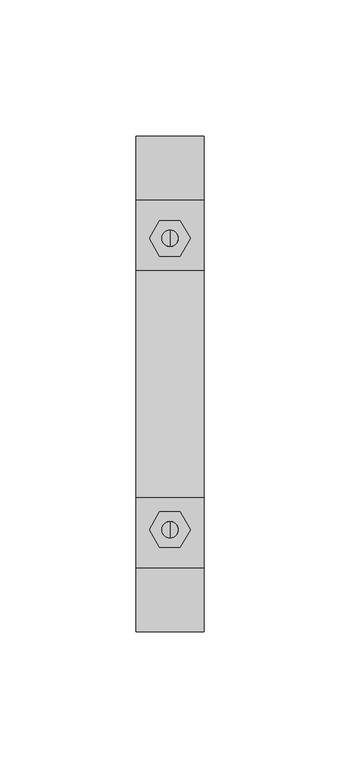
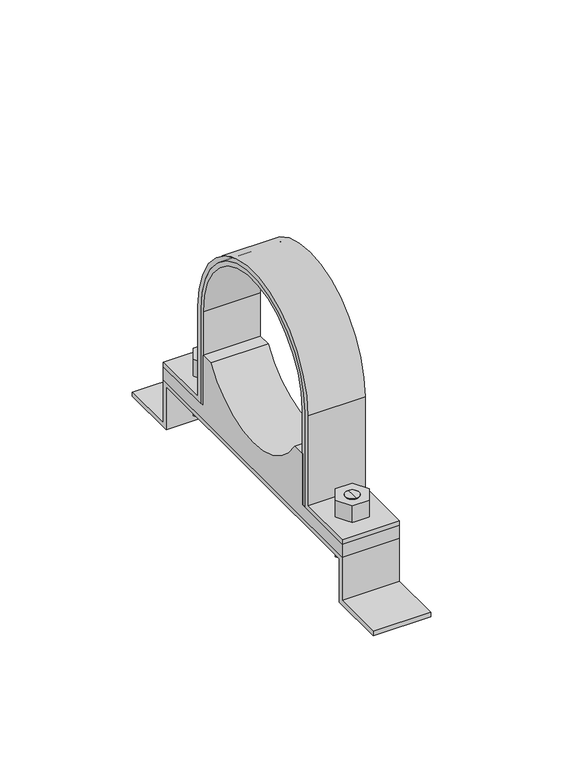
"""IFC4 building model written with IfcOpenShell, lengths in millimetres: valve geometry, Superfix DG3 Clamp (based on pipe) : Superfix DG3 Clamp (based on pipe)."""

from ifc_helpers import new_model, si_unit, point, frame, frame_2d, origin, place, context, project, spatial, polyline, circle_curve, trimmed, segment, composite_curve, outline, extrude, source, transform, mapped, element, save
from ifc_brep_helpers import plane_surface, cylinder_surface, advanced_brep


def valve_2bce42df(model_context):
    return source(origin(), model_context, "Body", "SolidModel", [
        advanced_brep(
        [(0.0, 56.5, 7.0), (0.0, 50.5, 7.0), (0.0, 50.5, 20.0), (0.0, 56.5, 20.0), (0.0, 53.5, 7.0)],
        [
            (0, 1, circle_curve(frame((0.0, 53.5, 7.0), z_axis=(0.0, 0.0, 1.0), x_axis=(0.0, 1.0, 0.0)), 3.0)),
            (1, 2),
            (2, 3, circle_curve(frame((0.0, 53.5, 20.0), z_axis=(0.0, 0.0, -1.0), x_axis=(0.0, 1.0, 0.0)), 3.0)),
            (3, 0),
            (1, 0, circle_curve(frame((0.0, 53.5, 7.0), z_axis=(0.0, 0.0, 1.0), x_axis=(0.0, 1.0, 0.0)), 3.0)),
            (3, 2, circle_curve(frame((0.0, 53.5, 20.0), z_axis=(0.0, 0.0, -1.0), x_axis=(0.0, 1.0, 0.0)), 3.0)),
            (0, 4),
            (4, 1),
        ],
        [
            cylinder_surface(frame((0.0, 53.5, 69.7806094), z_axis=(0.0, 0.0, 1.0), x_axis=(0.0, 1.0, 0.0)), 3.0),
            plane_surface(frame((0.0, 53.5, 7.0), z_axis=(0.0, 0.0, -1.0), x_axis=(0.0, 1.0, 0.0))),
            plane_surface(frame((13.75, -67.5, 20.0), z_axis=(0.0, 0.0, 1.0), x_axis=(-1.0, 0.0, 0.0))),
        ],
        [
            (0, [[1, 2, 3, 4]]),
            (0, [[5, -4, 6, -2]]),
            (1, [[-1, 7, 8]]),
            (1, [[-5, -8, -7]]),
            (2, [[-3, -6]]),
        ],
    ),
        advanced_brep(
        [(0.0, 50.5, 38.0), (0.0, 56.5, 38.0), (0.0, 56.5, 28.0), (0.0, 50.5, 28.0), (0.0, 53.5, 38.0)],
        [
            (0, 1, circle_curve(frame((0.0, 53.5, 38.0), z_axis=(0.0, 0.0, -1.0), x_axis=(0.0, 1.0, 0.0)), 3.0)),
            (1, 2),
            (2, 3, circle_curve(frame((0.0, 53.5, 28.0), z_axis=(0.0, 0.0, 1.0), x_axis=(0.0, 1.0, 0.0)), 3.0)),
            (3, 0),
            (1, 0, circle_curve(frame((0.0, 53.5, 38.0), z_axis=(0.0, 0.0, -1.0), x_axis=(0.0, 1.0, 0.0)), 3.0)),
            (3, 2, circle_curve(frame((0.0, 53.5, 28.0), z_axis=(0.0, 0.0, 1.0), x_axis=(0.0, 1.0, 0.0)), 3.0)),
            (0, 4),
            (4, 1),
        ],
        [
            cylinder_surface(frame((0.0, 53.5, 69.7806094), z_axis=(0.0, 0.0, 1.0), x_axis=(0.0, 1.0, 0.0)), 3.0),
            plane_surface(frame((0.0, 53.5, 38.0), z_axis=(0.0, 0.0, 1.0), x_axis=(0.0, 1.0, 0.0))),
            plane_surface(frame((13.75, 67.5, 28.0), z_axis=(0.0, 0.0, -1.0), x_axis=(-1.0, 0.0, 0.0))),
        ],
        [
            (0, [[1, 2, 3, 4]]),
            (0, [[5, -4, 6, -2]]),
            (1, [[-1, 7, 8]]),
            (1, [[-5, -8, -7]]),
            (2, [[-3, -6]]),
        ],
    ),
        advanced_brep(
        [(0.0, -56.5, 38.0), (0.0, -50.5, 38.0), (0.0, -50.5, 28.0), (0.0, -56.5, 28.0), (0.0, -53.5, 38.0)],
        [
            (0, 1, circle_curve(frame((0.0, -53.5, 38.0), z_axis=(0.0, 0.0, -1.0), x_axis=(0.0, -1.0, 0.0)), 3.0)),
            (1, 2),
            (2, 3, circle_curve(frame((0.0, -53.5, 28.0), z_axis=(0.0, 0.0, 1.0), x_axis=(0.0, -1.0, 0.0)), 3.0)),
            (3, 0),
            (1, 0, circle_curve(frame((0.0, -53.5, 38.0), z_axis=(0.0, 0.0, -1.0), x_axis=(0.0, -1.0, 0.0)), 3.0)),
            (3, 2, circle_curve(frame((0.0, -53.5, 28.0), z_axis=(0.0, 0.0, 1.0), x_axis=(0.0, -1.0, 0.0)), 3.0)),
            (0, 4),
            (4, 1),
        ],
        [
            cylinder_surface(frame((0.0, -53.5, 69.7806094), z_axis=(0.0, 0.0, -1.0), x_axis=(0.0, -1.0, 0.0)), 3.0),
            plane_surface(frame((0.0, -53.5, 38.0), z_axis=(0.0, 0.0, 1.0), x_axis=(0.0, -1.0, 0.0))),
            plane_surface(frame((13.75, 67.5, 28.0), z_axis=(0.0, 0.0, -1.0), x_axis=(-1.0, 0.0, 0.0))),
        ],
        [
            (0, [[1, 2, 3, 4]]),
            (0, [[5, -4, 6, -2]]),
            (1, [[-1, 7, 8]]),
            (1, [[-5, -8, -7]]),
            (2, [[-3, -6]]),
        ],
    ),
        advanced_brep(
        [(0.0, -50.5, 7.0), (0.0, -56.5, 7.0), (0.0, -56.5, 20.0), (0.0, -50.5, 20.0), (0.0, -53.5, 7.0)],
        [
            (0, 1, circle_curve(frame((0.0, -53.5, 7.0), z_axis=(0.0, 0.0, 1.0), x_axis=(0.0, -1.0, 0.0)), 3.0)),
            (1, 2),
            (2, 3, circle_curve(frame((0.0, -53.5, 20.0), z_axis=(0.0, 0.0, -1.0), x_axis=(0.0, -1.0, 0.0)), 3.0)),
            (3, 0),
            (1, 0, circle_curve(frame((0.0, -53.5, 7.0), z_axis=(0.0, 0.0, 1.0), x_axis=(0.0, -1.0, 0.0)), 3.0)),
            (3, 2, circle_curve(frame((0.0, -53.5, 20.0), z_axis=(0.0, 0.0, -1.0), x_axis=(0.0, -1.0, 0.0)), 3.0)),
            (0, 4),
            (4, 1),
        ],
        [
            cylinder_surface(frame((0.0, -53.5, 69.7806094), z_axis=(0.0, 0.0, -1.0), x_axis=(0.0, -1.0, 0.0)), 3.0),
            plane_surface(frame((0.0, -53.5, 7.0), z_axis=(0.0, 0.0, -1.0), x_axis=(0.0, -1.0, 0.0))),
            plane_surface(frame((13.75, -67.5, 20.0), z_axis=(0.0, 0.0, 1.0), x_axis=(-1.0, 0.0, 0.0))),
        ],
        [
            (0, [[1, 2, 3, 4]]),
            (0, [[5, -4, 6, -2]]),
            (1, [[-1, 7, 8]]),
            (1, [[-5, -8, -7]]),
            (2, [[-3, -6]]),
        ],
    ),
        extrude(outline(composite_curve([segment(trimmed(circle_curve(frame_2d((0.0, 71.5)), 39.5), [point((39.5, 71.5))], [point((-39.5, 71.5))], True, "CARTESIAN"), True, "CONTINUOUS"), segment(polyline([(-39.5, 71.5), (-39.5, 28.0), (-67.5, 28.0), (-67.5, 30.0), (-41.5, 30.0), (-41.5, 71.5)]), True, "CONTINUOUS"), segment(trimmed(circle_curve(frame_2d((0.0, 71.5)), 41.5), [point((-41.5, 71.5))], [point((41.5, 71.5))], False, "CARTESIAN"), True, "CONTINUOUS"), segment(polyline([(41.5, 71.5), (41.5, 30.0), (67.5, 30.0), (67.5, 28.0), (39.5, 28.0), (39.5, 71.5)]), True, "CONTINUOUS")], self_intersect=False)), frame((-12.5, 0.0, 0.0), z_axis=(1.0, 0.0, 0.0), x_axis=(0.0, 1.0, 0.0)), (0.0, 0.0, 1.0), 25.0),
        extrude(outline(polyline([(7.5055535, -53.5), (3.7527767, -60.0), (-3.7527767, -60.0), (-7.5055535, -53.5), (-3.7527767, -47.0), (3.7527767, -47.0), (7.5055535, -53.5)]), holes=[composite_curve([segment(trimmed(circle_curve(frame_2d((0.0, -53.5)), 3.0), [point((3.0, -53.5))], [point((-3.0, -53.5))], True, "CARTESIAN"), True, "CONTINUOUS"), segment(trimmed(circle_curve(frame_2d((0.0, -53.5)), 3.0), [point((-3.0, -53.5))], [point((3.0, -53.5))], True, "CARTESIAN"), True, "CONTINUOUS")], self_intersect=False)]), frame((0.0, 0.0, 30.0), z_axis=(0.0, 0.0, 1.0), x_axis=(1.0, 0.0, 0.0)), (0.0, 0.0, 1.0), 8.0),
        extrude(outline(polyline([(7.5055535, 53.5), (3.7527767, 47.0), (-3.7527767, 47.0), (-7.5055535, 53.5), (-3.7527767, 60.0), (3.7527767, 60.0), (7.5055535, 53.5)]), holes=[composite_curve([segment(trimmed(circle_curve(frame_2d((0.0, 53.5)), 3.0), [point((3.0, 53.5))], [point((-3.0, 53.5))], True, "CARTESIAN"), True, "CONTINUOUS"), segment(trimmed(circle_curve(frame_2d((0.0, 53.5)), 3.0), [point((-3.0, 53.5))], [point((3.0, 53.5))], True, "CARTESIAN"), True, "CONTINUOUS")], self_intersect=False)]), frame((0.0, 0.0, 30.0), z_axis=(0.0, 0.0, 1.0), x_axis=(1.0, 0.0, 0.0)), (0.0, 0.0, 1.0), 8.0),
        extrude(outline(polyline([(7.5055535, -53.5), (3.7527767, -60.0), (-3.7527767, -60.0), (-7.5055535, -53.5), (-3.7527767, -47.0), (3.7527767, -47.0), (7.5055535, -53.5)]), holes=[composite_curve([segment(trimmed(circle_curve(frame_2d((0.0, -53.5)), 3.0), [point((3.0, -53.5))], [point((-3.0, -53.5))], True, "CARTESIAN"), True, "CONTINUOUS"), segment(trimmed(circle_curve(frame_2d((0.0, -53.5)), 3.0), [point((-3.0, -53.5))], [point((3.0, -53.5))], True, "CARTESIAN"), True, "CONTINUOUS")], self_intersect=False)]), frame((0.0, 0.0, 12.0), z_axis=(0.0, 0.0, 1.0), x_axis=(1.0, 0.0, 0.0)), (0.0, 0.0, 1.0), 8.0),
        extrude(outline(polyline([(7.5055535, 53.5), (3.7527767, 47.0), (-3.7527767, 47.0), (-7.5055535, 53.5), (-3.7527767, 60.0), (3.7527767, 60.0), (7.5055535, 53.5)]), holes=[composite_curve([segment(trimmed(circle_curve(frame_2d((0.0, 53.5)), 3.0), [point((3.0, 53.5))], [point((-3.0, 53.5))], True, "CARTESIAN"), True, "CONTINUOUS"), segment(trimmed(circle_curve(frame_2d((0.0, 53.5)), 3.0), [point((-3.0, 53.5))], [point((3.0, 53.5))], True, "CARTESIAN"), True, "CONTINUOUS")], self_intersect=False)]), frame((0.0, 0.0, 12.0), z_axis=(0.0, 0.0, 1.0), x_axis=(1.0, 0.0, 0.0)), (0.0, 0.0, 1.0), 8.0),
        extrude(outline(composite_curve([segment(polyline([(-67.5, 22.0), (-67.5, 28.0), (-37.5, 28.0), (-37.5, 51.5), (-31.7214439, 51.5)]), True, "CONTINUOUS"), segment(trimmed(circle_curve(frame_2d((0.0, 71.5)), 37.5), [point((-31.7214439, 51.5))], [point((31.7214439, 51.5))], True, "CARTESIAN"), True, "CONTINUOUS"), segment(polyline([(31.7214439, 51.5), (37.5, 51.5), (37.5, 28.0), (67.5, 28.0), (67.5, 22.0), (-67.5, 22.0)]), True, "CONTINUOUS")], self_intersect=False)), frame((-12.5, 0.0, 0.0), z_axis=(1.0, 0.0, 0.0), x_axis=(0.0, 1.0, 0.0)), (0.0, 0.0, 1.0), 25.0),
        extrude(outline(polyline([(-91.0, 2.0), (-67.5, 2.0), (-67.5, 22.0), (0.0, 22.0), (67.5, 22.0), (67.5, 2.0), (91.0, 2.0), (91.0, 0.0), (65.5, 0.0), (65.5, 20.0), (0.0, 20.0), (-65.5, 20.0), (-65.5, 0.0), (-91.0, 0.0), (-91.0, 2.0)])), frame((-12.5, 0.0, 0.0), z_axis=(1.0, 0.0, 0.0), x_axis=(0.0, 1.0, 0.0)), (0.0, 0.0, 1.0), 25.0),
        extrude(outline(composite_curve([segment(trimmed(circle_curve(frame_2d((0.0, 71.5)), 37.5), [point((37.5, 71.5))], [point((-37.5, 71.5))], True, "CARTESIAN"), True, "CONTINUOUS"), segment(polyline([(-37.5, 71.5), (-37.5, 28.0), (-39.5, 28.0), (-39.5, 71.5)]), True, "CONTINUOUS"), segment(trimmed(circle_curve(frame_2d((0.0, 71.5)), 39.5), [point((-39.5, 71.5))], [point((39.5, 71.5))], False, "CARTESIAN"), True, "CONTINUOUS"), segment(polyline([(39.5, 71.5), (39.5, 28.0), (37.5, 28.0), (37.5, 71.5)]), True, "CONTINUOUS")], self_intersect=False)), frame((-12.5, 0.0, 0.0), z_axis=(1.0, 0.0, 0.0), x_axis=(0.0, 1.0, 0.0)), (0.0, 0.0, 1.0), 25.0),
    ])


if __name__ == "__main__":
    model = new_model("IFC4")
    model_context = context("Model", 3, world=origin())
    ifc_project = project(units=[si_unit("LENGTHUNIT", "METRE", prefix="MILLI")], contexts=[model_context])
    site = spatial("IfcSite", under=ifc_project)
    building = spatial("IfcBuilding", under=site)
    placement = place(None, origin())
    valve_shape = valve_2bce42df(model_context)
    element("IfcValve", 1, ObjectType="Superfix DG3 Clamp (based on pipe) : Superfix DG3 Clamp (based on pipe)", at=placement, inside=building, context=model_context, shape_type="MappedRepresentation", body=[
        mapped(valve_shape, transform((0.0, 0.0, 0.0), x_axis=(1.0, 0.0, 0.0), y_axis=(0.0, 1.0, 0.0), z_axis=(0.0, 0.0, 1.0))),
    ])
    save(model, "model.ifc")
